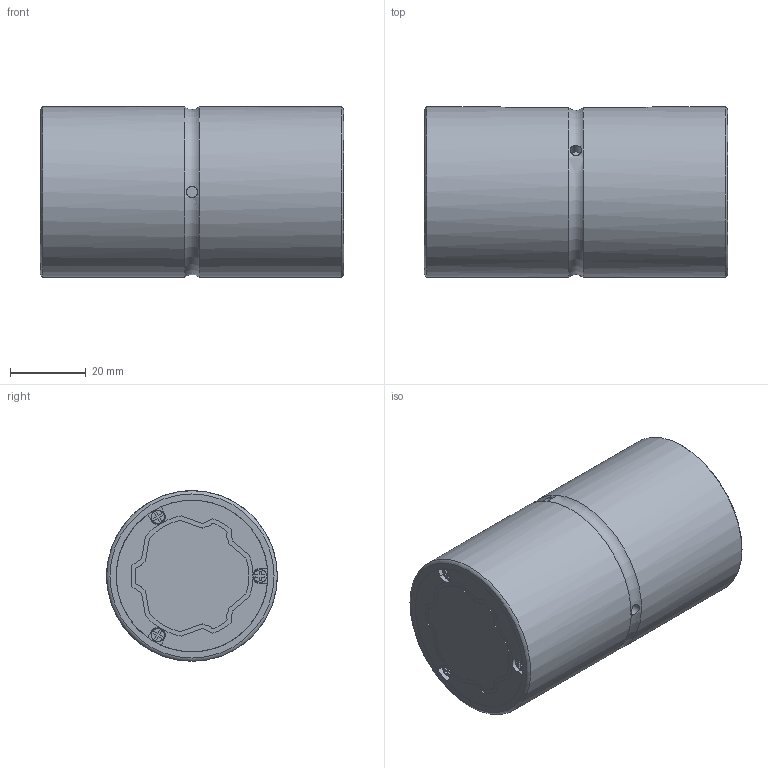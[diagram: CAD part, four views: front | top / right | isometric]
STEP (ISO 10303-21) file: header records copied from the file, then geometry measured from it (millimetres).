
FILE_DESCRIPTION(/* description */ ('STEP AP203'),/* implementation_level */ '2;1');
FILE_NAME(/* name */ 'SLS30L180(00)',/* time_stamp */ '2024-05-23T11:46:42+02:00',/* author */ ('License CC BY-ND 4.0'),/* organization */ ('CADENAS'),/* preprocessor_version */ 'ST-DEVELOPER v19.3',/* originating_system */ 'PARTsolutions',/* authorisation */ ' ');
FILE_SCHEMA (('CONFIG_CONTROL_DESIGN'));
Length unit declared in the file: millimetre
Products named in the file (3): SLS30L180(00); 30(L80); 30L cylinder
Assembly tree (2 placements, depth 2):
  SLS30L180(00)
    30(L80)
    30L cylinder
Bounding box: 80 x 45 x 45 mm (x, y, z)
Volume: 125525 mm3; surface area: 30711.3 mm2
Topology: 2 solids, 2 shells, 288 faces, 796 edges, 529 vertices
Faces by surface type: plane 180, cylinder 99, torus 9
Full cylindrical faces by diameter (mm): 3 x3, 3.5 x6, 40 x2, 45 x2
Entity records: 9156 total; most frequent: CARTESIAN_POINT 1637, DIRECTION 1566, ORIENTED_EDGE 1536, EDGE_CURVE 768, LINE 538, VECTOR 538, VERTEX_POINT 522, AXIS2_PLACEMENT_3D 514
